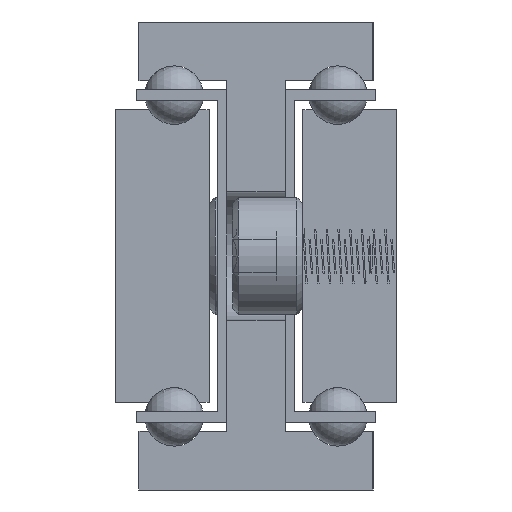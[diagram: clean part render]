
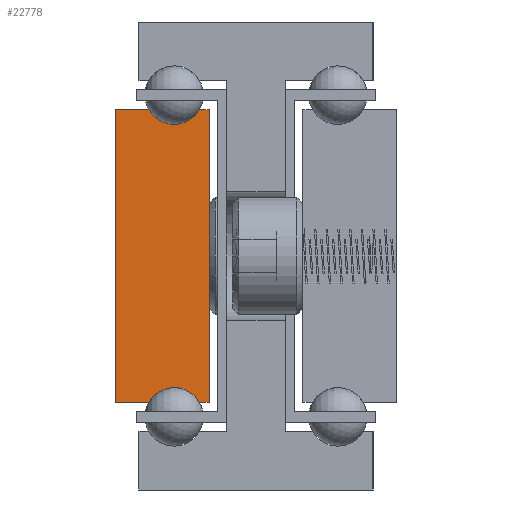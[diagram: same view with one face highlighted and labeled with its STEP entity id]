
A CAD part, left-side view. The second image highlights one B-rep face of the part: STEP entity #22778.
In plain terms, the highlighted planar face has unit normal (-1, 0, 0).
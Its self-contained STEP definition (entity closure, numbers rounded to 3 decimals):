
#21659=CARTESIAN_POINT('',(-0.,12.,12.5));
#21660=VERTEX_POINT('',#21659);
#21677=CARTESIAN_POINT('',(-0.,12.,-12.5));
#21678=VERTEX_POINT('',#21677);
#21685=CARTESIAN_POINT('',(-0.,12.,-12.5));
#21686=DIRECTION('',(-0.,0.,1.));
#21687=VECTOR('',#21686,25.);
#21688=LINE('',#21685,#21687);
#21689=EDGE_CURVE('',#21678,#21660,#21688,.T.);
#22436=CARTESIAN_POINT('',(-0.,4.,12.5));
#22437=VERTEX_POINT('',#22436);
#22454=CARTESIAN_POINT('',(-0.,4.835,12.5));
#22455=VERTEX_POINT('',#22454);
#22462=CARTESIAN_POINT('',(-0.,4.835,12.5));
#22463=DIRECTION('',(0.,-1.,0.));
#22464=VECTOR('',#22463,0.835);
#22465=LINE('',#22462,#22464);
#22466=EDGE_CURVE('',#22455,#22437,#22465,.T.);
#22478=CARTESIAN_POINT('',(-0.,7.,11.25));
#22479=VERTEX_POINT('',#22478);
#22495=CARTESIAN_POINT('',(-0.,9.165,12.5));
#22496=VERTEX_POINT('',#22495);
#22503=CARTESIAN_POINT('',(-0.,7.,13.75));
#22504=DIRECTION('',(-1.,-0.,-0.));
#22505=DIRECTION('',(0.,-1.,0.));
#22506=AXIS2_PLACEMENT_3D('',#22503,#22504,#22505);
#22507=CIRCLE('',#22506,2.5);
#22508=EDGE_CURVE('',#22496,#22479,#22507,.T.);
#22526=CARTESIAN_POINT('',(-0.,12.,12.5));
#22527=DIRECTION('',(0.,-1.,0.));
#22528=VECTOR('',#22527,2.835);
#22529=LINE('',#22526,#22528);
#22530=EDGE_CURVE('',#21660,#22496,#22529,.T.);
#22549=CARTESIAN_POINT('',(-0.,9.165,-12.5));
#22550=VERTEX_POINT('',#22549);
#22557=CARTESIAN_POINT('',(-0.,9.165,-12.5));
#22558=DIRECTION('',(-0.,1.,-0.));
#22559=VECTOR('',#22558,2.835);
#22560=LINE('',#22557,#22559);
#22561=EDGE_CURVE('',#22550,#21678,#22560,.T.);
#22581=CARTESIAN_POINT('',(-0.,4.835,-12.5));
#22582=VERTEX_POINT('',#22581);
#22589=CARTESIAN_POINT('',(-0.,7.,-13.75));
#22590=DIRECTION('',(-1.,-0.,-0.));
#22591=DIRECTION('',(0.,-1.,0.));
#22592=AXIS2_PLACEMENT_3D('',#22589,#22590,#22591);
#22593=CIRCLE('',#22592,2.5);
#22594=EDGE_CURVE('',#22582,#22550,#22593,.T.);
#22613=CARTESIAN_POINT('',(-0.,4.,-12.5));
#22614=VERTEX_POINT('',#22613);
#22621=CARTESIAN_POINT('',(-0.,4.,-12.5));
#22622=DIRECTION('',(-0.,1.,0.));
#22623=VECTOR('',#22622,0.835);
#22624=LINE('',#22621,#22623);
#22625=EDGE_CURVE('',#22614,#22582,#22624,.T.);
#22643=CARTESIAN_POINT('',(-0.,4.,12.5));
#22644=DIRECTION('',(0.,-0.,-1.));
#22645=VECTOR('',#22644,25.);
#22646=LINE('',#22643,#22645);
#22647=EDGE_CURVE('',#22437,#22614,#22646,.T.);
#22756=CARTESIAN_POINT('',(-0.,-0.,0.));
#22757=DIRECTION('',(-1.,-0.,-0.));
#22758=DIRECTION('',(-0.,0.,1.));
#22759=AXIS2_PLACEMENT_3D('',#22756,#22757,#22758);
#22760=PLANE('',#22759);
#22761=ORIENTED_EDGE('',*,*,#22466,.F.);
#22762=CARTESIAN_POINT('',(-0.,7.,13.75));
#22763=DIRECTION('',(-1.,-0.,-0.));
#22764=DIRECTION('',(0.,-1.,0.));
#22765=AXIS2_PLACEMENT_3D('',#22762,#22763,#22764);
#22766=CIRCLE('',#22765,2.5);
#22767=EDGE_CURVE('',#22479,#22455,#22766,.T.);
#22768=ORIENTED_EDGE('',*,*,#22767,.F.);
#22769=ORIENTED_EDGE('',*,*,#22508,.F.);
#22770=ORIENTED_EDGE('',*,*,#22530,.F.);
#22771=ORIENTED_EDGE('',*,*,#21689,.F.);
#22772=ORIENTED_EDGE('',*,*,#22561,.F.);
#22773=ORIENTED_EDGE('',*,*,#22594,.F.);
#22774=ORIENTED_EDGE('',*,*,#22625,.F.);
#22775=ORIENTED_EDGE('',*,*,#22647,.F.);
#22776=EDGE_LOOP('',(#22761,#22768,#22769,#22770,#22771,#22772,#22773,#22774,#22775));
#22777=FACE_BOUND('',#22776,.T.);
#22778=ADVANCED_FACE('',(#22777),#22760,.T.);
